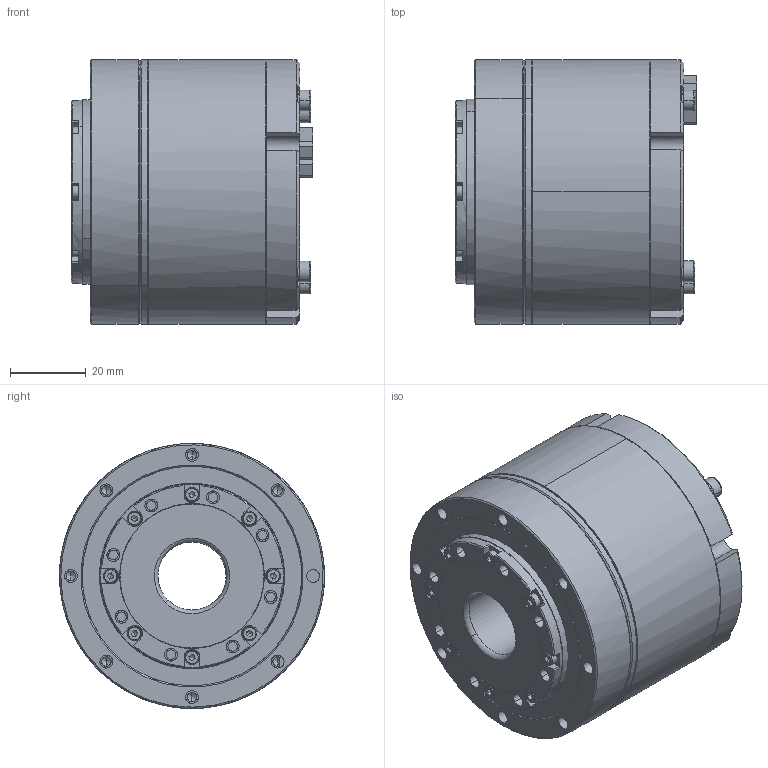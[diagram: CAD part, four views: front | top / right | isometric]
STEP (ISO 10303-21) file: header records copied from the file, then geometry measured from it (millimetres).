
FILE_DESCRIPTION (( 'STEP AP203' ), '1' );
FILE_NAME ('eRob70F｡ﾁ｡ﾁI-F-XX-18CX_V3_MC2A.9X.XX.STEP', '2025-04-02T07:19:48', ( 'Windows User' ), ( 'P R C' ), 'SwSTEP 2.0', 'SolidWorks 2021', '' );
FILE_SCHEMA (( 'CONFIG_CONTROL_DESIGN' ));
Length unit declared in the file: millimetre
Products named in the file (1): eRob70F××I-F-XX-18CX_V3_MC2A.9X.XX
Bounding box: 63.8 x 70 x 70 mm (x, y, z)
Volume: 186050.7 mm3; surface area: 47908.9 mm2
Topology: 1 solids, 41 shells, 2111 faces, 5525 edges, 3569 vertices
Faces by surface type: plane 1289, cylinder 504, cone 142, bspline 140, torus 36
Full cylindrical faces by diameter (mm): 2.5 x10, 18 x1, 38.513 x2, 51.258 x3
Entity records: 87640 total; most frequent: CARTESIAN_POINT 46500, ORIENTED_EDGE 10820, EDGE_CURVE 5410, B_SPLINE_CURVE_WITH_KNOTS 5018, DIRECTION 4449, VERTEX_POINT 3556, EDGE_LOOP 2392, FACE_OUTER_BOUND 2127
